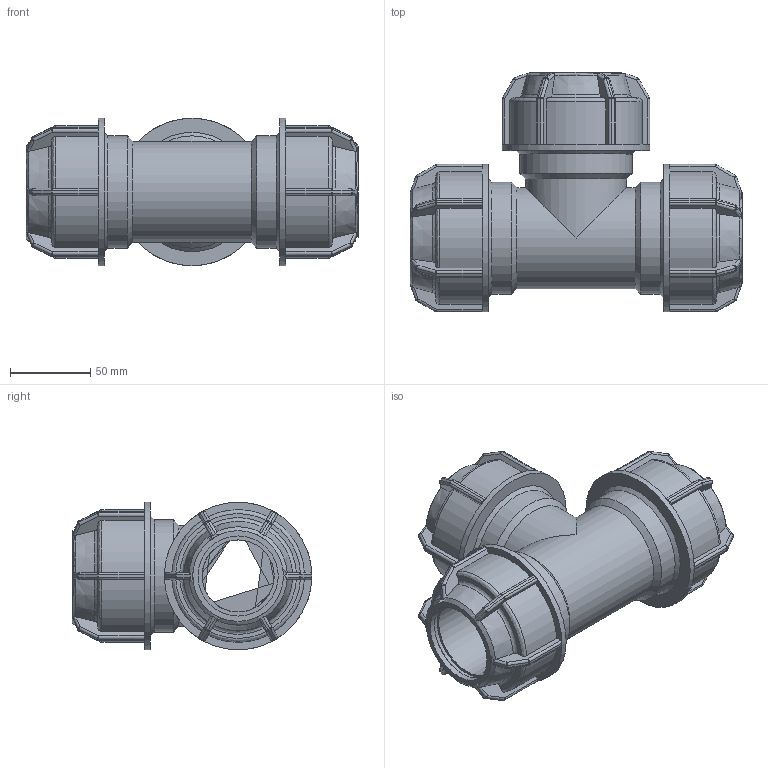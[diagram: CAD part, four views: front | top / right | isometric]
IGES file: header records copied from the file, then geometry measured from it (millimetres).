
Global section: file name: 140400050.ipt; native system: Autodesk Inventor 2015; preprocessor: unknown; author: KIM; date: 20180409.131035; units: millimetre
Bounding box: 207 x 149.5 x 92 mm (x, y, z)
Volume: 638326.1 mm3; surface area: 133742.4 mm2
Topology: 1 solids, 1 shells, 604 faces, 1446 edges, 843 vertices
Faces by surface type: plane 288, cylinder 170, sphere 72, revolution 50, cone 24
Full cylindrical faces by diameter (mm): 63 x2, 70 x3, 92 x3
